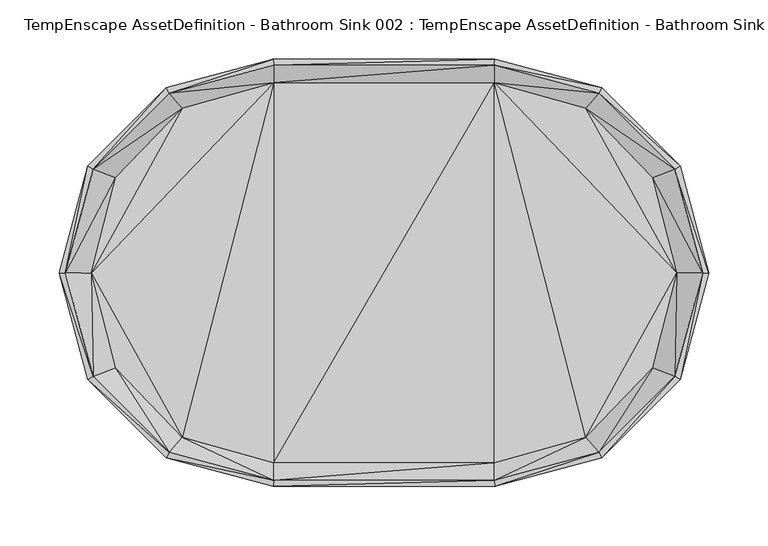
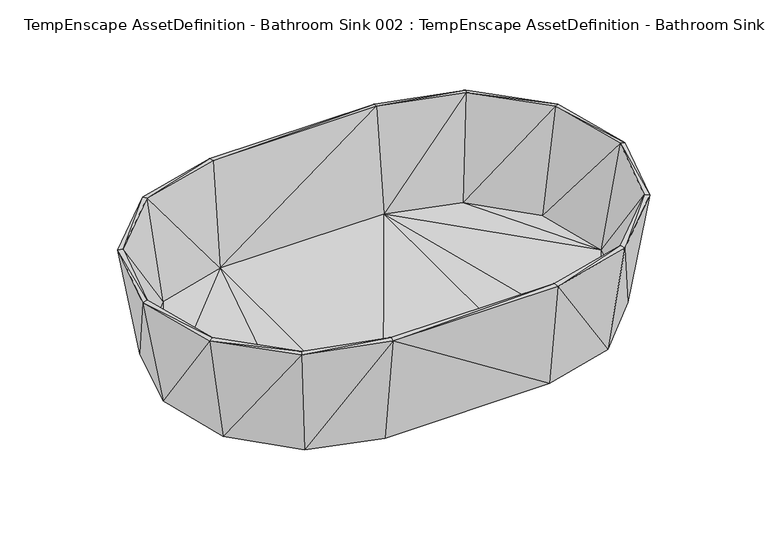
"""IFC4 building model written with IfcOpenShell, lengths in millimetres: geographic element geometry, TempEnscape AssetDefinition - Bathroom Sink 002 : TempEnscape AssetDefinition - Bathroom Sink 002."""

from ifc_helpers import new_model, si_unit, origin, place, context, project, spatial, faceted_brep, source, transform, mapped, element, save


def tempenscape_assetdefinition_bathroom_sink_002_tempenscape_20c72bbc(model_context):
    return source(origin(), model_context, "Body", "Brep", [
        faceted_brep([(-93.7878564, 164.4507796, 0.0), (-184.1831654, 156.5692127, 126.9665509), (-93.7878564, 180.7906479, 126.9665509), (-172.5465804, 142.4187273, 0.0), (-250.3570616, 90.3953239, 126.9665509), (-181.5165132, 152.0105749, 127.7069002), (-245.7803488, 87.7982602, 127.8361529), (93.7878564, 180.7906479, 126.9665509), (-93.1044668, 175.544098, 127.641812), (-93.2897776, 160.805136, 7.1864282), (-170.6302017, 139.1608715, 7.0888004), (-226.9591391, 80.3975984, 7.1448456), (-269.3301439, 0.0099435, 127.9166043), (-247.604534, 0.0081356, 7.1656364), (-245.7902879, -87.7928361, 127.870515), (-274.5784819, 0.0, 126.9665509), (-226.951912, -80.3831294, 7.1321907), (-170.6166565, -139.1536444, 7.0761456), (-181.5101802, -152.0196199, 127.7430505), (-250.3570616, -90.3953239, 126.9665509), (-230.2025408, 82.2253898, 0.0), (-251.3053119, 0.0, 0.0), (-230.2025408, -82.2253898, 0.0), (-184.1831654, -156.5692127, 126.9665509), (-172.5465804, -142.4187273, 0.0), (-93.7878564, -180.7906479, 126.9665509), (-93.0945277, -175.5477041, 127.6526451), (-93.7878564, -164.4507796, 0.0), (93.7878564, 164.4507796, 0.0), (93.7878564, -164.4507796, 0.0), (93.7878564, -180.7906479, 126.9665509), (93.0945277, -175.5477041, 127.6526451), (172.5465804, -142.4187273, 0.0), (184.1831654, -156.5692127, 126.9665509), (181.5101802, -152.0196199, 127.7430505), (170.6166565, -139.1536444, 7.0761456), (93.2807401, -160.801515, 7.1819085), (226.951912, -80.3831294, 7.1321907), (245.7902879, -87.7928361, 127.870515), (230.2025408, -82.2253898, 0.0), (250.3570616, -90.3953239, 126.9665509), (247.604534, 0.0081356, 7.1656364), (269.3301439, 0.0099435, 127.9166043), (93.2897776, 160.805136, 7.1864282), (-93.2807401, -160.801515, 7.1819085), (93.1044668, 175.544098, 127.641812), (181.5165132, 152.0105749, 127.7069002), (184.1831654, 156.5692127, 126.9665509), (170.6302017, 139.1608715, 7.0888004), (245.7803488, 87.7982602, 127.8361529), (250.3570616, 90.3953239, 126.9665509), (172.5465804, 142.4187273, 0.0), (230.2025408, 82.2253898, 0.0), (274.5784819, 0.0, 126.9665509), (226.9591391, 80.3975984, 7.1448456), (251.3053119, 0.0, 0.0)], [[[0, 1, 2]], [[1, 0, 3]], [[3, 4, 1]], [[5, 2, 1]], [[1, 6, 5]], [[6, 1, 4]], [[7, 0, 2]], [[2, 5, 8]], [[8, 7, 2]], [[5, 9, 8]], [[9, 5, 10]], [[6, 10, 5]], [[10, 6, 11]], [[12, 11, 6]], [[4, 12, 6]], [[13, 10, 11]], [[9, 10, 13]], [[11, 12, 13]], [[14, 13, 12]], [[12, 4, 15]], [[15, 14, 12]], [[13, 14, 16]], [[17, 13, 16]], [[9, 13, 17]], [[18, 16, 14]], [[14, 15, 19]], [[19, 18, 14]], [[20, 15, 4]], [[15, 20, 21]], [[21, 19, 15]], [[19, 21, 22]], [[22, 23, 19]], [[18, 19, 23]], [[3, 21, 20]], [[0, 21, 3]], [[24, 21, 0]], [[22, 21, 24]], [[4, 3, 20]], [[23, 22, 24]], [[24, 25, 23]], [[23, 26, 18]], [[26, 23, 25]], [[25, 24, 27]], [[24, 0, 27]], [[0, 7, 28]], [[28, 27, 0]], [[29, 25, 27]], [[27, 28, 29]], [[25, 29, 30]], [[25, 31, 26]], [[31, 25, 30]], [[32, 30, 29]], [[28, 32, 29]], [[30, 32, 33]], [[30, 34, 31]], [[34, 30, 33]], [[31, 35, 36]], [[35, 31, 34]], [[36, 26, 31]], [[34, 37, 35]], [[37, 34, 38]], [[33, 38, 34]], [[39, 33, 32]], [[33, 39, 40]], [[38, 33, 40]], [[38, 41, 37]], [[41, 38, 42]], [[40, 42, 38]], [[41, 35, 37]], [[43, 35, 41]], [[36, 35, 43]], [[26, 36, 44]], [[43, 44, 36]], [[17, 26, 44]], [[9, 17, 44]], [[44, 43, 9]], [[26, 17, 18]], [[16, 18, 17]], [[45, 9, 43]], [[9, 45, 8]], [[43, 46, 45]], [[47, 45, 46]], [[45, 47, 7]], [[7, 8, 45]], [[46, 43, 48]], [[48, 49, 46]], [[50, 46, 49]], [[46, 50, 47]], [[28, 47, 51]], [[47, 28, 7]], [[50, 51, 47]], [[51, 50, 52]], [[53, 52, 50]], [[49, 53, 50]], [[49, 48, 54]], [[54, 42, 49]], [[53, 49, 42]], [[52, 53, 55]], [[40, 55, 53]], [[42, 40, 53]], [[52, 55, 51]], [[51, 55, 28]], [[28, 55, 32]], [[55, 40, 39]], [[32, 55, 39]], [[42, 54, 41]], [[48, 41, 54]], [[43, 41, 48]]]),
    ])


if __name__ == "__main__":
    model = new_model("IFC4")
    model_context = context("Model", 3, world=origin())
    ifc_project = project(units=[si_unit("LENGTHUNIT", "METRE", prefix="MILLI")], contexts=[model_context])
    site = spatial("IfcSite", under=ifc_project)
    building = spatial("IfcBuilding", under=site)
    placement = place(None, origin())
    tempenscape_assetdefinition_bathroom_sink_002_tempenscape_shape = tempenscape_assetdefinition_bathroom_sink_002_tempenscape_20c72bbc(model_context)
    element("IfcGeographicElement", 1, ObjectType="TempEnscape AssetDefinition - Bathroom Sink 002 : TempEnscape AssetDefinition - Bathroom Sink 002", at=placement, inside=building, context=model_context, shape_type="MappedRepresentation", body=[
        mapped(tempenscape_assetdefinition_bathroom_sink_002_tempenscape_shape, transform((0.0, 0.0, 0.0), x_axis=(1.0, 0.0, 0.0), y_axis=(0.0, 1.0, 0.0), z_axis=(0.0, 0.0, 1.0))),
    ])
    save(model, "model.ifc")
